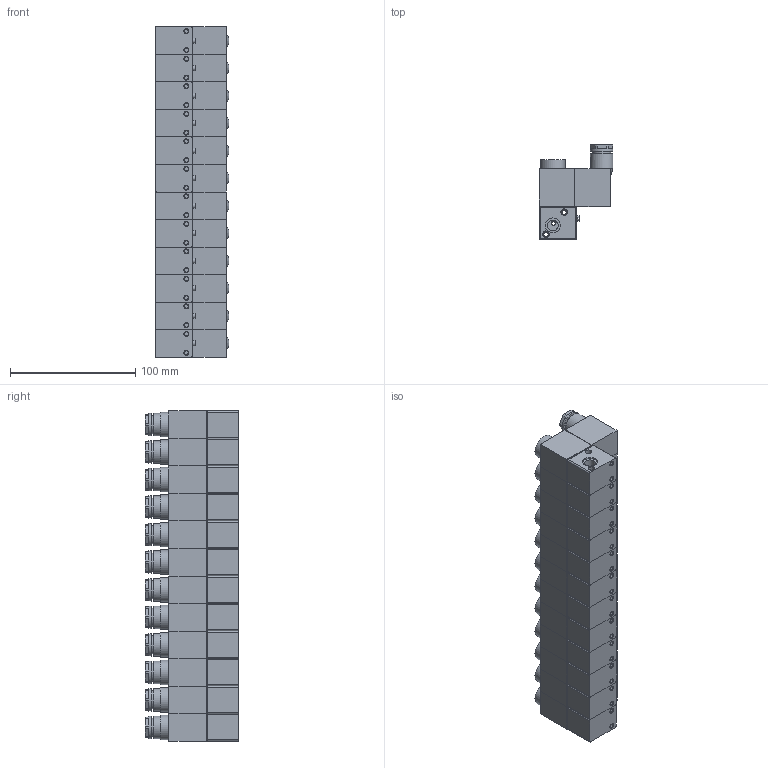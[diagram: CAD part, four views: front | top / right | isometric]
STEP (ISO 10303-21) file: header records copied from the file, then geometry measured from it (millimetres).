
FILE_DESCRIPTION(/* description */ ('STEP AP214'),/* implementation_level */ '2;1');
FILE_NAME(/* name */ '86-MS-3V-12-xxx.stp',/* time_stamp */ '2026-01-15T09:37:52+01:00',/* author */ ('Tschernatsch'),/* organization */ ('CADENAS'),/* preprocessor_version */ 'ST-DEVELOPER v20',/* originating_system */ 'Autodesk Inventor 2024',/* authorisation */ ' ');
FILE_SCHEMA (('AUTOMOTIVE_DESIGN { 1 0 10303 214 3 1 1 }'));
Length unit declared in the file: millimetre
Products named in the file (3): 3v1-06-LD-DC24V-12F; 3v1-06-LD-DC24V-12F3; 3v1-06-LD-DC24V-12F2
Assembly tree (24 placements, depth 2):
  3v1-06-LD-DC24V-12F
    3v1-06-LD-DC24V-12F3  x12
    3v1-06-LD-DC24V-12F2  x12
Bounding box: 59 x 75 x 264 mm (x, y, z)
Volume: 698376.6 mm3; surface area: 178328.9 mm2
Topology: 24 solids, 24 shells, 1080 faces, 2340 edges, 1548 vertices
Faces by surface type: plane 732, cylinder 300, cone 48
Full cylindrical faces by diameter (mm): 3.242 x24, 3.5 x36, 4 x12, 4.3 x12, 5.2 x48, 8.566 x36, 11 x12, 12 x24, 14.4 x12, 18 x24, 19.6 x12
Entity records: 2777 total; most frequent: DIRECTION 501, CARTESIAN_POINT 443, ORIENTED_EDGE 390, EDGE_CURVE 195, AXIS2_PLACEMENT_3D 190, VERTEX_POINT 129, LINE 121, VECTOR 121
